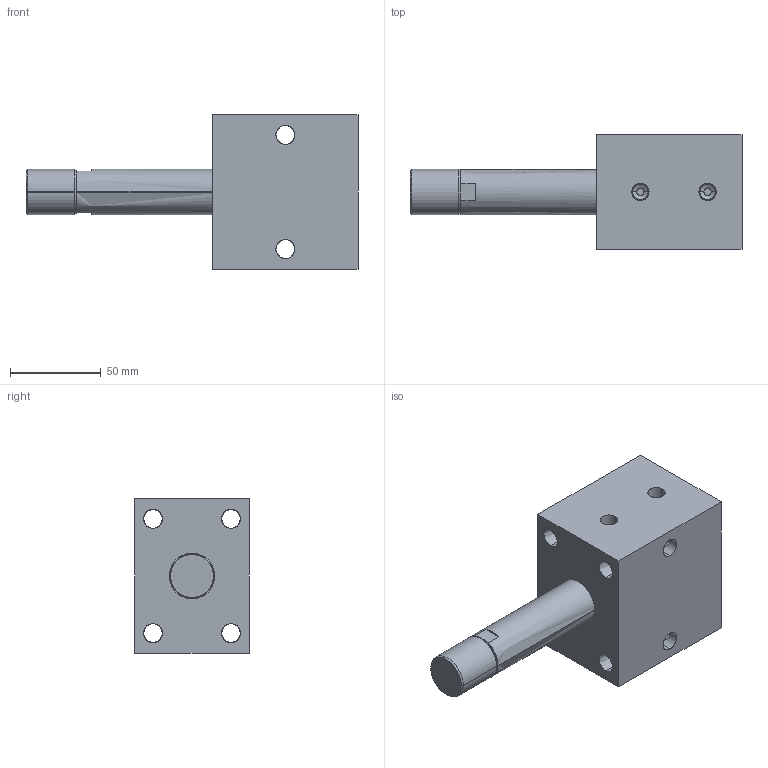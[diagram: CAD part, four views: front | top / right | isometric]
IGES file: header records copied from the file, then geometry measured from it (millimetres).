
Start section: SolidWorks IGES file using analytic representation for surfaces
Global section: file name: C:\Documents and Settings\rajib\Desktop\Rajib\BLOCK CYLINDER HYDRAULIC\0401-0406\IGS 0401-0406\0405.IGS; native system: SolidWorks 2007; preprocessor: SolidWorks 2007; author: rajib; date: 110121.102401; units: millimetre
Bounding box: 183 x 63 x 85 mm (x, y, z)
Surface area: 57063.9 mm2 (no closed solid volume)
Topology: 0 solids, 0 shells, 76 faces, 1704 edges, 1704 vertices
Faces by surface type: revolution 54, bspline 22
